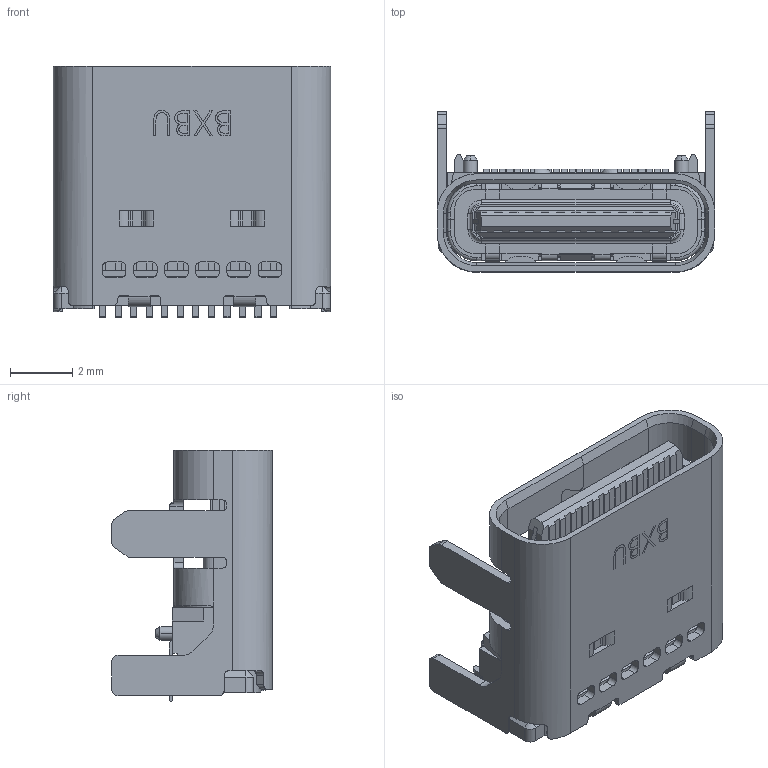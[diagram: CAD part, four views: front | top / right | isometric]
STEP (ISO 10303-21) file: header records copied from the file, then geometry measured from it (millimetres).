
FILE_DESCRIPTION (( 'STEP AP203' ), '1' );
FILE_NAME ('U5112-24PN2.0J7.9L.STEP', '2026-09-21T06:41:16', ( '' ), ( '' ), 'SwSTEP 2.0', 'SolidWorks 2024', '' );
FILE_SCHEMA (( 'CONFIG_CONTROL_DESIGN' ));
Length unit declared in the file: millimetre
Products named in the file (1): U5112-24PN2.0J7.9L
Bounding box: 8.94 x 5.16 x 8.1 mm (x, y, z)
Surface area: 632 mm2 (no closed solid volume)
Topology: 0 solids, 50 shells, 1475 faces, 4469 edges, 3004 vertices
Faces by surface type: plane 1092, cylinder 326, cone 23, torus 18, bspline 16
Entity records: 50729 total; most frequent: CARTESIAN_POINT 10318, ORIENTED_EDGE 8640, DIRECTION 7922, EDGE_CURVE 4470, LINE 3630, VECTOR 3630, VERTEX_POINT 3005, AXIS2_PLACEMENT_3D 2146
